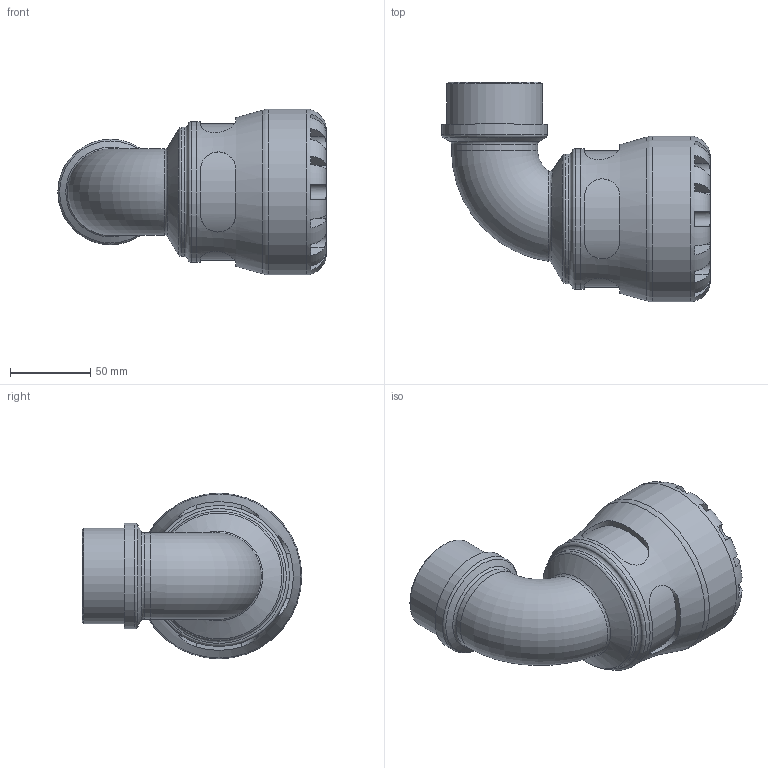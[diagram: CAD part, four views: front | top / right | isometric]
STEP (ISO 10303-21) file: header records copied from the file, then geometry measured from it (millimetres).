
FILE_DESCRIPTION(/* description */ ('PLASSON 90° ELBOW WITH MALE INTEGRAL BRASS 63X2" SERIES 1'),/* implementation_level */ '2;1');
FILE_NAME(/* name */ 'C:\Dropbox\KIMPROJECTS-Inventor\99-16-3568-Processing\1077\107700063020_197700063020.ipt.stp',/* time_stamp */ '2017-01-22T11:54:50+02:00',/* author */ ('KIM'),/* organization */ (''),/* preprocessor_version */ 'ST-DEVELOPER v15.6',/* originating_system */ 'Autodesk Inventor 2015',/* authorisation */ '');
FILE_SCHEMA (('AUTOMOTIVE_DESIGN { 1 0 10303 214 3 1 1 }'));
Length unit declared in the file: millimetre
Products named in the file (1): 107700063020_197700063020
Bounding box: 166.79 x 136.5 x 103 mm (x, y, z)
Volume: 485799.1 mm3; surface area: 93227.8 mm2
Topology: 1 solids, 1 shells, 112 faces, 275 edges, 170 vertices
Faces by surface type: plane 60, cylinder 37, torus 9, cone 3, bspline 3
Full cylindrical faces by diameter (mm): 41.73 x2, 53.653 x1, 59.614 x1, 63 x1, 65.575 x1, 80.34 x1, 87.55 x1, 103 x1
Entity records: 4433 total; most frequent: CARTESIAN_POINT 1857, DIRECTION 495, ORIENTED_EDGE 492, EDGE_CURVE 246, AXIS2_PLACEMENT_3D 207, VERTEX_POINT 163, EDGE_LOOP 141, STYLED_ITEM 113
